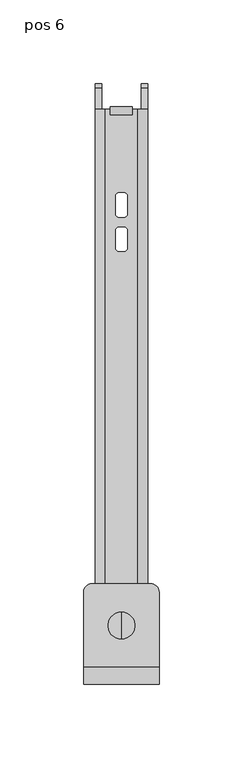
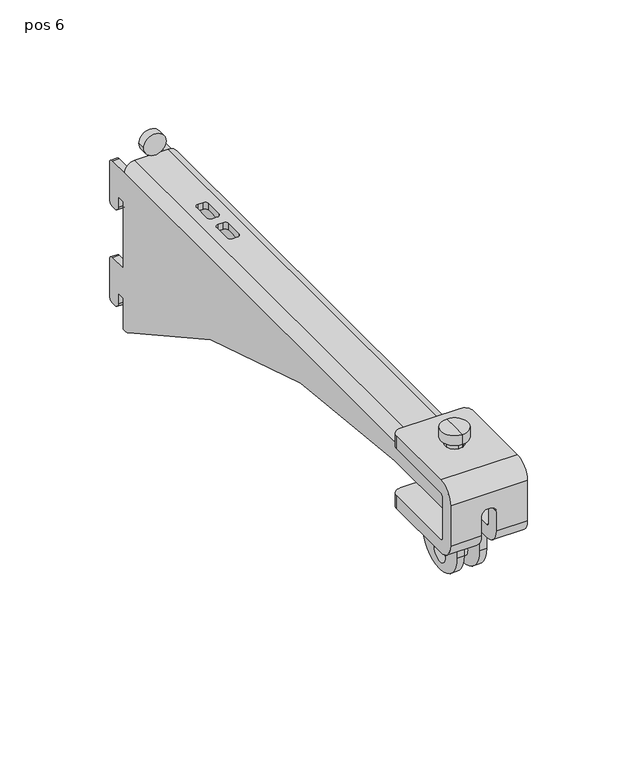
"""IFC4 building model written with IfcOpenShell, lengths in millimetres: proxy geometry, ePS10-WM330-BUMP-WVM : pos 6."""

from ifc_helpers import new_model, si_unit, point, frame, frame_2d, origin, place, context, project, spatial, polyline, circle_curve, trimmed, segment, composite_curve, outline, extrude, source, transform, mapped, element, save
from ifc_brep_helpers import plane_surface, cylinder_surface, revolved_surface, advanced_brep


def pos_6_9f17bd98(model_context):
    return source(origin(), model_context, "Body", "SolidModel", [
        extrude(outline(composite_curve([segment(polyline([(-342.0, -61.9639301), (-342.0, -48.9639301), (-307.0, -48.9639301), (-307.0, -61.9639301)]), True, "CONTINUOUS"), segment(trimmed(circle_curve(frame_2d((-324.0, -61.9639301)), 17.0), [point((-307.0, -61.9639301))], [point((-324.0, -78.9639301))], False, "CARTESIAN"), True, "CONTINUOUS"), segment(polyline([(-324.0, -78.9639301), (-325.0, -78.9639301)]), True, "CONTINUOUS"), segment(trimmed(circle_curve(frame_2d((-325.0, -61.9639301)), 17.0), [point((-325.0, -78.9639301))], [point((-342.0, -61.9639301))], False, "CARTESIAN"), True, "CONTINUOUS")], self_intersect=False), holes=[composite_curve([segment(trimmed(circle_curve(frame_2d((-324.5, -68.9639301)), 5.5), [point((-319.0, -68.9639301))], [point((-330.0, -68.9639301))], True, "CARTESIAN"), True, "CONTINUOUS"), segment(trimmed(circle_curve(frame_2d((-324.5, -68.9639301)), 5.5), [point((-330.0, -68.9639301))], [point((-319.0, -68.9639301))], True, "CARTESIAN"), True, "CONTINUOUS")], self_intersect=False)]), frame((4.5, 0.0, 0.0), z_axis=(1.0, 0.0, 0.0), x_axis=(0.0, 1.0, 0.0)), (0.0, 0.0, 1.0), 4.2),
        extrude(outline(composite_curve([segment(polyline([(-342.0, -48.9639301), (-307.0, -48.9639301), (-307.0, -61.9639301)]), True, "CONTINUOUS"), segment(trimmed(circle_curve(frame_2d((-324.0, -61.9639301)), 17.0), [point((-307.0, -61.9639301))], [point((-324.0, -78.9639301))], False, "CARTESIAN"), True, "CONTINUOUS"), segment(polyline([(-324.0, -78.9639301), (-325.0, -78.9639301)]), True, "CONTINUOUS"), segment(trimmed(circle_curve(frame_2d((-325.0, -61.9639301)), 17.0), [point((-325.0, -78.9639301))], [point((-342.0, -61.9639301))], False, "CARTESIAN"), True, "CONTINUOUS"), segment(polyline([(-342.0, -61.9639301), (-342.0, -48.9639301)]), True, "CONTINUOUS")], self_intersect=False), holes=[composite_curve([segment(trimmed(circle_curve(frame_2d((-324.5, -68.9639301)), 5.5), [point((-330.0, -68.9639301))], [point((-319.0, -68.9639301))], True, "CARTESIAN"), True, "CONTINUOUS"), segment(trimmed(circle_curve(frame_2d((-324.5, -68.9639301)), 5.5), [point((-319.0, -68.9639301))], [point((-330.0, -68.9639301))], True, "CARTESIAN"), True, "CONTINUOUS")], self_intersect=False)]), frame((-8.7, 0.0, 0.0), z_axis=(1.0, 0.0, 0.0), x_axis=(0.0, 1.0, 0.0)), (0.0, 0.0, 1.0), 4.2),
        advanced_brep(
        [(22.5, -349.5, -3.9639301), (22.5, -359.5, -13.9639301), (22.5, -359.5, -38.9639301), (22.5, -349.5, -48.9639301), (22.5, -304.5, -48.9639301), (22.5, -304.5, -40.9639301), (22.5, -349.5, -40.9639301), (22.5, -351.5, -38.9639301), (22.5, -351.5, -13.9639301), (22.5, -349.5, -11.9639301), (22.5, -304.5, -11.9639301), (22.5, -304.5, -3.9639301), (-22.5, -349.5, -11.9639301), (-22.5, -351.5, -13.9639301), (-22.5, -351.5, -38.9639301), (-22.5, -349.5, -40.9639301), (-22.5, -304.5, -40.9639301), (-22.5, -304.5, -48.9639301), (-22.5, -349.5, -48.9639301), (-22.5, -359.5, -38.9639301), (-22.5, -359.5, -13.9639301), (-22.5, -349.5, -3.9639301), (-22.5, -304.5, -3.9639301), (-22.5, -304.5, -11.9639301), (-4.5, -359.5, -38.9639301), (-4.5, -359.5, -27.388708), (-0.5, -359.5, -23.388708), (0.5, -359.5, -23.388708), (4.5, -359.5, -27.388708), (4.5, -359.5, -38.9639301), (4.5, -349.5, -48.9639301), (-4.5, -349.5, -48.9639301), (4.5, -304.5, -48.9639301), (9.5, -299.5, -48.9639301), (17.5, -299.5, -48.9639301), (-17.5, -299.5, -48.9639301), (-9.5, -299.5, -48.9639301), (-4.5, -304.5, -48.9639301), (-17.5, -299.5, -40.9639301), (-9.5, -299.5, -40.9639301), (17.5, -299.5, -40.9639301), (9.5, -299.5, -40.9639301), (4.5, -304.5, -40.9639301), (4.5, -349.5, -40.9639301), (-4.5, -349.5, -40.9639301), (-4.5, -304.5, -40.9639301), (4.5, -351.5, -38.9639301), (-4.5, -351.5, -38.9639301), (4.5, -351.5, -27.388708), (0.5, -351.5, -23.388708), (-0.5, -351.5, -23.388708), (-4.5, -351.5, -27.388708), (-17.5, -299.5, -11.9639301), (17.5, -299.5, -11.9639301), (-5.4761514, -324.5, -11.9639301), (5.4761514, -324.5, -11.9639301), (-17.5, -299.5, -3.9639301), (17.5, -299.5, -3.9639301), (5.4761514, -324.5, -3.9639301), (-5.4761514, -324.5, -3.9639301)],
        [
            (0, 1, circle_curve(frame((22.5, -349.5, -13.9639301), z_axis=(1.0, 0.0, 0.0), x_axis=(0.0, 1.0, 0.0)), 10.0)),
            (1, 2),
            (2, 3, circle_curve(frame((22.5, -349.5, -38.9639301), z_axis=(1.0, 0.0, 0.0), x_axis=(0.0, 1.0, 0.0)), 10.0)),
            (3, 4),
            (4, 5),
            (5, 6),
            (6, 7, circle_curve(frame((22.5, -349.5, -38.9639301), z_axis=(-1.0, 0.0, 0.0), x_axis=(0.0, 1.0, 0.0)), 2.0)),
            (7, 8),
            (8, 9, circle_curve(frame((22.5, -349.5, -13.9639301), z_axis=(-1.0, 0.0, 0.0), x_axis=(0.0, 1.0, 0.0)), 2.0)),
            (9, 10),
            (10, 11),
            (11, 0),
            (12, 13, circle_curve(frame((-22.5, -349.5, -13.9639301), z_axis=(1.0, 0.0, 0.0), x_axis=(0.0, 1.0, 0.0)), 2.0)),
            (13, 14),
            (14, 15, circle_curve(frame((-22.5, -349.5, -38.9639301), z_axis=(1.0, 0.0, 0.0), x_axis=(0.0, 1.0, 0.0)), 2.0)),
            (15, 16),
            (16, 17),
            (17, 18),
            (18, 19, circle_curve(frame((-22.5, -349.5, -38.9639301), z_axis=(-1.0, 0.0, 0.0), x_axis=(0.0, 1.0, 0.0)), 10.0)),
            (19, 20),
            (20, 21, circle_curve(frame((-22.5, -349.5, -13.9639301), z_axis=(-1.0, 0.0, 0.0), x_axis=(0.0, 1.0, 0.0)), 10.0)),
            (21, 22),
            (22, 23),
            (23, 12),
            (0, 21),
            (20, 1),
            (19, 24),
            (24, 25),
            (25, 26, circle_curve(frame((-0.5, -359.5, -27.388708), z_axis=(0.0, 1.0, 0.0), x_axis=(1.0, 0.0, 0.0)), 4.0)),
            (26, 27),
            (27, 28, circle_curve(frame((0.5, -359.5, -27.388708), z_axis=(0.0, 1.0, 0.0), x_axis=(1.0, 0.0, 0.0)), 4.0)),
            (28, 29),
            (29, 2),
            (29, 30, circle_curve(frame((4.5, -349.5, -38.9639301), z_axis=(1.0, 0.0, 0.0), x_axis=(0.0, 1.0, 0.0)), 10.0)),
            (30, 3),
            (18, 31),
            (31, 24, circle_curve(frame((-4.5, -349.5, -38.9639301), z_axis=(-1.0, 0.0, 0.0), x_axis=(0.0, 1.0, 0.0)), 10.0)),
            (30, 32),
            (32, 33, circle_curve(frame((9.5, -304.5, -48.9639301), z_axis=(0.0, 0.0, -1.0), x_axis=(-1.0, 0.0, 0.0)), 5.0)),
            (33, 34),
            (34, 4, circle_curve(frame((17.5, -304.5, -48.9639301), z_axis=(0.0, 0.0, -1.0), x_axis=(-1.0, 0.0, 0.0)), 5.0)),
            (17, 35, circle_curve(frame((-17.5, -304.5, -48.9639301), z_axis=(0.0, 0.0, -1.0), x_axis=(1.0, 0.0, 0.0)), 5.0)),
            (35, 36),
            (36, 37, circle_curve(frame((-9.5, -304.5, -48.9639301), z_axis=(0.0, 0.0, -1.0), x_axis=(1.0, 0.0, 0.0)), 5.0)),
            (37, 31),
            (35, 38),
            (38, 39),
            (39, 36),
            (40, 34),
            (33, 41),
            (41, 40),
            (5, 40, circle_curve(frame((17.5, -304.5, -40.9639301), z_axis=(0.0, 0.0, 1.0), x_axis=(-1.0, 0.0, 0.0)), 5.0)),
            (41, 42, circle_curve(frame((9.5, -304.5, -40.9639301), z_axis=(0.0, 0.0, 1.0), x_axis=(-1.0, 0.0, 0.0)), 5.0)),
            (42, 43),
            (43, 6),
            (15, 44),
            (44, 45),
            (45, 39, circle_curve(frame((-9.5, -304.5, -40.9639301), z_axis=(0.0, 0.0, 1.0), x_axis=(1.0, 0.0, 0.0)), 5.0)),
            (38, 16, circle_curve(frame((-17.5, -304.5, -40.9639301), z_axis=(0.0, 0.0, 1.0), x_axis=(1.0, 0.0, 0.0)), 5.0)),
            (43, 46, circle_curve(frame((4.5, -349.5, -38.9639301), z_axis=(-1.0, 0.0, 0.0), x_axis=(0.0, 1.0, 0.0)), 2.0)),
            (46, 7),
            (14, 47),
            (47, 44, circle_curve(frame((-4.5, -349.5, -38.9639301), z_axis=(1.0, 0.0, 0.0), x_axis=(0.0, 1.0, 0.0)), 2.0)),
            (46, 48),
            (48, 49, circle_curve(frame((0.5, -351.5, -27.388708), z_axis=(0.0, -1.0, 0.0), x_axis=(1.0, 0.0, 0.0)), 4.0)),
            (49, 50),
            (50, 51, circle_curve(frame((-0.5, -351.5, -27.388708), z_axis=(0.0, -1.0, 0.0), x_axis=(1.0, 0.0, 0.0)), 4.0)),
            (51, 47),
            (13, 8),
            (12, 9),
            (23, 52, circle_curve(frame((-17.5, -304.5, -11.9639301), z_axis=(0.0, 0.0, -1.0), x_axis=(1.0, 0.0, 0.0)), 5.0)),
            (52, 53),
            (53, 10, circle_curve(frame((17.5, -304.5, -11.9639301), z_axis=(0.0, 0.0, -1.0), x_axis=(-1.0, 0.0, 0.0)), 5.0)),
            (54, 55, circle_curve(frame((0.0, -324.5, -11.9639301), z_axis=(0.0, 0.0, 1.0), x_axis=(1.0, 0.0, 0.0)), 5.4761514)),
            (55, 54, circle_curve(frame((0.0, -324.5, -11.9639301), z_axis=(0.0, 0.0, 1.0), x_axis=(1.0, 0.0, 0.0)), 5.4761514)),
            (52, 56),
            (56, 57),
            (57, 53),
            (11, 57, circle_curve(frame((17.5, -304.5, -3.9639301), z_axis=(0.0, 0.0, 1.0), x_axis=(-1.0, 0.0, 0.0)), 5.0)),
            (56, 22, circle_curve(frame((-17.5, -304.5, -3.9639301), z_axis=(0.0, 0.0, 1.0), x_axis=(1.0, 0.0, 0.0)), 5.0)),
            (58, 59, circle_curve(frame((0.0, -324.5, -3.9639301), z_axis=(0.0, 0.0, -1.0), x_axis=(1.0, 0.0, 0.0)), 5.4761514)),
            (59, 58, circle_curve(frame((0.0, -324.5, -3.9639301), z_axis=(0.0, 0.0, -1.0), x_axis=(1.0, 0.0, 0.0)), 5.4761514)),
            (58, 55),
            (54, 59),
            (28, 48),
            (42, 32),
            (27, 49),
            (26, 50),
            (25, 51),
            (37, 45),
        ],
        [
            plane_surface(frame((22.5, -339.5, -13.9639301), z_axis=(1.0, 0.0, 0.0), x_axis=(0.0, 0.0, 1.0))),
            plane_surface(frame((-22.5, -339.5, -13.9639301), z_axis=(-1.0, 0.0, 0.0), x_axis=(0.0, 0.0, -1.0))),
            cylinder_surface(frame((-22.5, -349.5, -13.9639301), z_axis=(1.0, 0.0, 0.0), x_axis=(0.0, 1.0, 0.0)), 10.0),
            plane_surface(frame((22.5, -359.5, -13.9639301), z_axis=(0.0, -1.0, 0.0), x_axis=(-1.0, 0.0, 0.0))),
            cylinder_surface(frame((-22.5, -349.5, -38.9639301), z_axis=(1.0, 0.0, 0.0), x_axis=(0.0, 1.0, 0.0)), 10.0),
            plane_surface(frame((22.5, -349.5, -48.9639301), z_axis=(0.0, 0.0, -1.0), x_axis=(-1.0, 0.0, 0.0))),
            plane_surface(frame((22.5, -299.5, -48.9639301), z_axis=(0.0, 1.0, 0.0), x_axis=(-1.0, 0.0, 0.0))),
            plane_surface(frame((22.5, -299.5, -40.9639301), z_axis=(0.0, 0.0, 1.0), x_axis=(-1.0, 0.0, 0.0))),
            revolved_surface(polyline([(4.5, -347.5, -38.9639301), (22.5, -347.5, -38.9639301)]), (-22.5, -349.5, -38.9639301), (-1.0, 0.0, 0.0)),
            revolved_surface(polyline([(-22.5, -347.5, -38.9639301), (-4.5, -347.5, -38.9639301)]), (-22.5, -349.5, -38.9639301), (-1.0, 0.0, 0.0)),
            plane_surface(frame((22.5, -351.5, -38.9639301), z_axis=(0.0, 1.0, 0.0), x_axis=(-1.0, 0.0, 0.0))),
            revolved_surface(polyline([(-22.5, -347.5, -13.9639301), (22.5, -347.5, -13.9639301)]), (-22.5, -349.5, -13.9639301), (-1.0, 0.0, 0.0)),
            plane_surface(frame((22.5, -349.5, -11.9639301), z_axis=(0.0, 0.0, -1.0), x_axis=(-1.0, 0.0, 0.0))),
            plane_surface(frame((22.5, -299.5, -11.9639301), z_axis=(0.0, 1.0, 0.0), x_axis=(-1.0, 0.0, 0.0))),
            plane_surface(frame((22.5, -299.5, -3.9639301), z_axis=(0.0, 0.0, 1.0), x_axis=(-1.0, 0.0, 0.0))),
            cylinder_surface(frame((-17.5, -304.5, -48.9639301), z_axis=(0.0, 0.0, -1.0), x_axis=(1.0, 0.0, 0.0)), 5.0),
            cylinder_surface(frame((17.5, -304.5, -11.9639301), z_axis=(0.0, 0.0, -1.0), x_axis=(-1.0, 0.0, 0.0)), 5.0),
            revolved_surface(polyline([(5.4761514, -324.5, -3.9639301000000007), (5.4761514, -324.5, -11.9639301)]), (0.0, -324.5, -11.9639301), (0.0, 0.0, 1.0)),
            plane_surface(frame((4.5, -359.5, -78.9639301), z_axis=(-1.0, 0.0, 0.0), x_axis=(0.0, 1.0, 0.0))),
            revolved_surface(polyline([(4.5, -359.5, -27.388708), (4.5, -351.5, -27.388708)]), (0.5, -299.5, -27.388708), (0.0, -1.0, 0.0)),
            plane_surface(frame((0.5, -359.5, -23.388708), z_axis=(0.0, 0.0, -1.0), x_axis=(0.0, 1.0, 0.0))),
            revolved_surface(polyline([(3.5, -359.5, -27.388708), (3.5, -351.5, -27.388708)]), (-0.5, -299.5, -27.388708), (0.0, -1.0, 0.0)),
            plane_surface(frame((-4.5, -359.5, -27.388708), z_axis=(1.0, 0.0, 0.0), x_axis=(0.0, 1.0, 0.0))),
            cylinder_surface(frame((-9.5, -304.5, -48.9639301), z_axis=(0.0, 0.0, -1.0), x_axis=(1.0, 0.0, 0.0)), 5.0),
            cylinder_surface(frame((9.5, -304.5, -11.9639301), z_axis=(0.0, 0.0, -1.0), x_axis=(-1.0, 0.0, 0.0)), 5.0),
        ],
        [
            (0, [[1, 2, 3, 4, 5, 6, 7, 8, 9, 10, 11, 12]]),
            (1, [[13, 14, 15, 16, 17, 18, 19, 20, 21, 22, 23, 24]]),
            (2, [[-1, 25, -21, 26]]),
            (3, [[-2, -26, -20, 27, 28, 29, 30, 31, 32, 33]]),
            (4, [[-3, -33, 34, 35]]),
            (4, [[-19, 36, 37, -27]]),
            (5, [[-4, -35, 38, 39, 40, 41]]),
            (5, [[-18, 42, 43, 44, 45, -36]]),
            (6, [[46, 47, 48, -43]]),
            (6, [[49, -40, 50, 51]]),
            (7, [[-6, 52, -51, 53, 54, 55]]),
            (7, [[-16, 56, 57, 58, -47, 59]]),
            (8, [[-7, -55, 60, 61]]),
            (9, [[-15, 62, 63, -56]]),
            (10, [[-8, -61, 64, 65, 66, 67, 68, -62, -14, 69]]),
            (11, [[-9, -69, -13, 70]]),
            (12, [[-70, -24, 71, 72, 73, -10], [74, 75]]),
            (13, [[-72, 76, 77, 78]]),
            (14, [[-25, -12, 79, -77, 80, -22], [81, 82]]),
            (15, [[-17, -59, -46, -42]]),
            (15, [[-23, -80, -76, -71]]),
            (16, [[-5, -41, -49, -52]]),
            (16, [[-11, -73, -78, -79]]),
            (17, [[83, -74, 84, -81]]),
            (17, [[-83, -82, -84, -75]]),
            (18, [[85, -64, -60, -54, 86, -38, -34, -32]]),
            (19, [[-85, -31, 87, -65]]),
            (20, [[-87, -30, 88, -66]]),
            (21, [[-88, -29, 89, -67]]),
            (22, [[-89, -28, -37, -45, 90, -57, -63, -68]]),
            (23, [[-44, -48, -58, -90]]),
            (24, [[-39, -86, -53, -50]]),
        ],
    ),
        advanced_brep(
        [(0.0, -316.5, 0.0), (0.0, -332.5, 0.0), (0.0, -332.5, 6.0), (0.0, -316.5, 6.0), (0.0, -320.5, 0.0), (0.0, -328.5, 0.0), (0.0, -320.5, -12.0), (0.0, -328.5, -12.0), (0.0, -324.5, 6.0)],
        [
            (0, 1, circle_curve(frame((0.0, -324.5, 0.0), z_axis=(0.0, 0.0, 1.0), x_axis=(0.0, -1.0, 0.0)), 8.0)),
            (1, 2),
            (2, 3, circle_curve(frame((0.0, -324.5, 6.0), z_axis=(0.0, 0.0, -1.0), x_axis=(0.0, -1.0, 0.0)), 8.0)),
            (3, 0),
            (1, 0, circle_curve(frame((0.0, -324.5, 0.0), z_axis=(0.0, 0.0, 1.0), x_axis=(0.0, -1.0, 0.0)), 8.0)),
            (3, 2, circle_curve(frame((0.0, -324.5, 6.0), z_axis=(0.0, 0.0, -1.0), x_axis=(0.0, -1.0, 0.0)), 8.0)),
            (0, 4),
            (4, 5, circle_curve(frame((0.0, -324.5, 0.0), z_axis=(0.0, 0.0, 1.0), x_axis=(0.0, -1.0, 0.0)), 4.0)),
            (5, 1),
            (5, 4, circle_curve(frame((0.0, -324.5, 0.0), z_axis=(0.0, 0.0, 1.0), x_axis=(0.0, -1.0, 0.0)), 4.0)),
            (4, 6),
            (6, 7, circle_curve(frame((0.0, -324.5, -12.0), z_axis=(0.0, 0.0, 1.0), x_axis=(0.0, -1.0, 0.0)), 4.0)),
            (7, 5),
            (7, 6, circle_curve(frame((0.0, -324.5, -12.0), z_axis=(0.0, 0.0, 1.0), x_axis=(0.0, -1.0, 0.0)), 4.0)),
            (2, 8),
            (8, 3),
        ],
        [
            cylinder_surface(frame((0.0, -324.5, 10.4453694), z_axis=(0.0, 0.0, -1.0), x_axis=(0.0, -1.0, 0.0)), 8.0),
            plane_surface(frame((0.0, -324.5, 0.0), z_axis=(0.0, 0.0, -1.0), x_axis=(0.0, -1.0, 0.0))),
            cylinder_surface(frame((0.0, -324.5, 10.4453694), z_axis=(0.0, 0.0, -1.0), x_axis=(0.0, -1.0, 0.0)), 4.0),
            plane_surface(frame((0.0, -324.5, 6.0), z_axis=(0.0, 0.0, 1.0), x_axis=(0.0, -1.0, 0.0))),
            plane_surface(frame((4.5, -324.5, -12.0), z_axis=(0.0, 0.0, -1.0), x_axis=(0.0, 1.0, 0.0))),
        ],
        [
            (0, [[1, 2, 3, 4]]),
            (0, [[-2, 5, -4, 6]]),
            (1, [[-1, 7, 8, 9]]),
            (1, [[-5, -9, 10, -7]]),
            (2, [[-8, 11, 12, 13]]),
            (2, [[-10, -13, 14, -11]]),
            (3, [[-3, 15, 16]]),
            (3, [[-6, -16, -15]]),
            (4, [[-12, -14]]),
        ],
    ),
        advanced_brep(
        [(0.0, -314.5, -16.0), (0.0, -334.5, -16.0), (0.0, -329.0, -16.0), (-4.5, -324.5, -16.0), (0.0, -320.0, -16.0), (4.5, -324.5, -16.0), (0.0, -314.5, -30.0), (0.0, -334.5, -30.0), (0.0, -324.5, -30.0), (-4.5, -324.5, -18.0), (4.5, -324.5, -18.0)],
        [
            (0, 1, circle_curve(frame((0.0, -324.5, -16.0), z_axis=(0.0, 0.0, 1.0), x_axis=(0.0, -1.0, 0.0)), 10.0)),
            (1, 2),
            (2, 3, circle_curve(frame((0.0, -324.5, -16.0), z_axis=(0.0, 0.0, -1.0), x_axis=(1.0, 0.0, 0.0)), 4.5)),
            (3, 4, circle_curve(frame((0.0, -324.5, -16.0), z_axis=(0.0, 0.0, -1.0), x_axis=(1.0, 0.0, 0.0)), 4.5)),
            (4, 0),
            (1, 0, circle_curve(frame((0.0, -324.5, -16.0), z_axis=(0.0, 0.0, 1.0), x_axis=(0.0, -1.0, 0.0)), 10.0)),
            (4, 5, circle_curve(frame((0.0, -324.5, -16.0), z_axis=(0.0, 0.0, -1.0), x_axis=(1.0, 0.0, 0.0)), 4.5)),
            (5, 2, circle_curve(frame((0.0, -324.5, -16.0), z_axis=(0.0, 0.0, -1.0), x_axis=(1.0, 0.0, 0.0)), 4.5)),
            (0, 6),
            (6, 7, circle_curve(frame((0.0, -324.5, -30.0), z_axis=(0.0, 0.0, 1.0), x_axis=(0.0, -1.0, 0.0)), 10.0)),
            (7, 1),
            (7, 6, circle_curve(frame((0.0, -324.5, -30.0), z_axis=(0.0, 0.0, 1.0), x_axis=(0.0, -1.0, 0.0)), 10.0)),
            (6, 8),
            (8, 7),
            (9, 10, circle_curve(frame((0.0, -324.5, -18.0), z_axis=(0.0, 0.0, 1.0), x_axis=(1.0, 0.0, 0.0)), 4.5)),
            (10, 9, circle_curve(frame((0.0, -324.5, -18.0), z_axis=(0.0, 0.0, 1.0), x_axis=(1.0, 0.0, 0.0)), 4.5)),
            (9, 3),
            (5, 10),
        ],
        [
            plane_surface(frame((0.0, -324.5, -16.0), z_axis=(0.0, 0.0, 1.0), x_axis=(0.0, -1.0, 0.0))),
            cylinder_surface(frame((0.0, -324.5, 10.4453694), z_axis=(0.0, 0.0, -1.0), x_axis=(0.0, -1.0, 0.0)), 10.0),
            plane_surface(frame((0.0, -324.5, -30.0), z_axis=(0.0, 0.0, -1.0), x_axis=(0.0, -1.0, 0.0))),
            plane_surface(frame((4.5, -324.5, -18.0), z_axis=(0.0, 0.0, 1.0), x_axis=(0.0, -1.0, 0.0))),
            revolved_surface(polyline([(4.5, -324.5, -16.0), (4.5, -324.5, -18.0)]), (0.0, -324.5, -18.0), (0.0, 0.0, 1.0)),
        ],
        [
            (0, [[1, 2, 3, 4, 5]]),
            (0, [[6, -5, 7, 8, -2]]),
            (1, [[-1, 9, 10, 11]]),
            (1, [[-6, -11, 12, -9]]),
            (2, [[-10, 13, 14]]),
            (2, [[-12, -14, -13]]),
            (3, [[15, 16]]),
            (4, [[-15, 17, -3, -8, 18]]),
            (4, [[-16, -18, -7, -4, -17]]),
        ],
    ),
        advanced_brep(
        [(-11.75, -344.6066017, -18.0), (-9.75, -344.6066017, -16.0), (9.75, -344.6066017, -16.0), (11.75, -344.6066017, -18.0), (11.75, -344.6066017, -27.0), (15.75, -344.6066017, -27.0), (15.75, -344.6066017, -17.9999955), (9.7500045, -344.6066017, -12.0), (-9.7500045, -344.6066017, -12.0), (-15.75, -344.6066017, -17.9999955), (-15.75, -344.6066017, -27.0), (-11.75, -344.6066017, -27.0), (15.75, -1.0, -19.5148645), (15.75, -1.0, -44.4851355), (11.75, -1.0, -44.4851355), (11.75, -1.0, -19.5148645), (15.75, -1.0, -79.5148645), (15.75, -1.0, -104.4851355), (11.75, -1.0, -104.4851355), (11.75, -1.0, -79.5148645), (-11.75, -1.0, -19.5148645), (-11.75, -1.0, -44.4851355), (-15.75, -1.0, -44.4851355), (-15.75, -1.0, -19.5148645), (-11.75, -1.0, -79.5148645), (-11.75, -1.0, -104.4851355), (-15.75, -1.0, -104.4851355), (-15.75, -1.0, -79.5148645), (-15.75, -16.1066017, -17.9999955), (-15.75, -3.6066017, -18.0), (-15.75, -3.6066017, -46.0), (-15.75, -6.6066017, -46.0), (-15.75, -9.6066017, -43.0), (-15.75, -9.6066017, -36.5), (-15.75, -14.6066017, -36.5), (-15.75, -14.6066017, -78.0), (-15.75, -3.6066017, -78.0), (-15.75, -3.6066017, -106.0), (-15.75, -6.6066017, -106.0), (-15.75, -9.6066017, -103.0), (-15.75, -9.6066017, -96.5), (-15.75, -14.6066017, -96.5), (-15.75, -14.6066017, -115.7221159), (-15.75, -17.1105815, -115.7221159), (-15.75, -19.7818053, -114.9054408), (-15.75, -290.8148171, -30.0), (-15.75, -341.6066017, -30.0), (-11.75, -14.6066017, -115.7221159), (-11.75, -17.1105815, -115.7221159), (-11.75, -341.6066017, -30.0), (-11.75, -290.8148171, -30.0), (-11.75, -19.7818053, -114.9054408), (-11.75, -14.6066017, -96.5), (-11.75, -9.6066017, -96.5), (-11.75, -9.6066017, -103.0), (-11.75, -6.6066017, -106.0), (-11.75, -3.6066017, -106.0), (-11.75, -3.6066017, -78.0), (-11.75, -14.6066017, -78.0), (-11.75, -14.6066017, -36.5), (-11.75, -9.6066017, -36.5), (-11.75, -9.6066017, -43.0), (-11.75, -6.6066017, -46.0), (-11.75, -3.6066017, -46.0), (-11.75, -3.6066017, -18.0), (-11.75, -16.1066017, -18.0), (-9.75, -16.1066017, -16.0), (9.75, -16.1066017, -16.0), (-4.5, -324.5, -16.0), (4.5, -324.5, -16.0), (3.5, -78.6066017, -16.0), (3.5, -68.1066017, -16.0), (1.5, -66.1066017, -16.0), (-1.5, -66.1066017, -16.0), (-3.5, -68.1066017, -16.0), (-3.5, -78.6066017, -16.0), (-1.5, -80.6066017, -16.0), (1.5, -80.6066017, -16.0), (3.5, -99.1066017, -16.0), (3.5, -88.6066017, -16.0), (1.5, -86.6066017, -16.0), (-1.5, -86.6066017, -16.0), (-3.5, -88.6066017, -16.0), (-3.5, -99.1066017, -16.0), (-1.5, -101.1066017, -16.0), (1.5, -101.1066017, -16.0), (11.75, -16.1066017, -18.0), (11.75, -3.6066017, -18.0), (11.75, -3.6066017, -46.0), (11.75, -6.6066017, -46.0), (11.75, -9.6066017, -43.0), (11.75, -9.6066017, -36.5), (11.75, -14.6066017, -36.5), (11.75, -14.6066017, -78.0), (11.75, -3.6066017, -78.0), (11.75, -3.6066017, -106.0), (11.75, -6.6066017, -106.0), (11.75, -9.6066017, -103.0), (11.75, -9.6066017, -96.5), (11.75, -14.6066017, -96.5), (11.75, -14.6066017, -115.7221159), (11.75, -17.1105815, -115.7221159), (11.75, -19.7818053, -114.9054408), (11.75, -290.8148171, -30.0), (11.75, -341.6066017, -30.0), (15.75, -14.6066017, -115.7221159), (15.75, -17.1105815, -115.7221159), (15.75, -341.6066017, -30.0), (15.75, -290.8148171, -30.0), (15.75, -19.7818053, -114.9054408), (15.75, -14.6066017, -96.5), (15.75, -9.6066017, -96.5), (15.75, -9.6066017, -103.0), (15.75, -6.6066017, -106.0), (15.75, -3.6066017, -106.0), (15.75, -3.6066017, -78.0), (15.75, -14.6066017, -78.0), (15.75, -14.6066017, -36.5), (15.75, -9.6066017, -36.5), (15.75, -9.6066017, -43.0), (15.75, -6.6066017, -46.0), (15.75, -3.6066017, -46.0), (15.75, -3.6066017, -18.0), (15.75, -16.1066017, -18.0), (9.7500045, -16.1066017, -12.0), (-9.7500045, -16.1066017, -12.0), (4.5, -324.5, -12.0), (-4.5, -324.5, -12.0), (3.5, -68.1066017, -12.0), (3.5, -78.6066017, -12.0), (1.5, -80.6066017, -12.0), (-1.5, -80.6066017, -12.0), (-3.5, -78.6066017, -12.0), (-3.5, -68.1066017, -12.0), (-1.5, -66.1066017, -12.0), (1.5, -66.1066017, -12.0), (3.5, -88.6066017, -12.0), (3.5, -99.1066017, -12.0), (1.5, -101.1066017, -12.0), (-1.5, -101.1066017, -12.0), (-3.5, -99.1066017, -12.0), (-3.5, -88.6066017, -12.0), (-1.5, -86.6066017, -12.0), (1.5, -86.6066017, -12.0)],
        [
            (0, 1, circle_curve(frame((-9.75, -344.6066017, -18.0), z_axis=(0.0, 1.0, 0.0), x_axis=(1.0, 0.0, 0.0)), 2.0)),
            (1, 2),
            (2, 3, circle_curve(frame((9.75, -344.6066017, -18.0), z_axis=(0.0, 1.0, 0.0), x_axis=(-1.0, 0.0, 0.0)), 2.0)),
            (3, 4),
            (4, 5),
            (5, 6),
            (6, 7, circle_curve(frame((9.7500045, -344.6066017, -17.9999955), z_axis=(0.0, -1.0, 0.0), x_axis=(-1.0, 0.0, 0.0)), 5.9999955)),
            (7, 8),
            (8, 9, circle_curve(frame((-9.7500045, -344.6066017, -17.9999955), z_axis=(0.0, -1.0, 0.0), x_axis=(1.0, 0.0, 0.0)), 5.9999955)),
            (9, 10),
            (10, 11),
            (11, 0),
            (12, 13),
            (13, 14),
            (14, 15),
            (15, 12),
            (16, 17),
            (17, 18),
            (18, 19),
            (19, 16),
            (20, 21),
            (21, 22),
            (22, 23),
            (23, 20),
            (24, 25),
            (25, 26),
            (26, 27),
            (27, 24),
            (9, 28),
            (28, 29),
            (29, 23, circle_curve(frame((-15.75, -3.6066017, -21.0), z_axis=(-1.0, 0.0, 0.0), x_axis=(0.0, 1.0, 0.0)), 3.0)),
            (22, 30, circle_curve(frame((-15.75, -3.6066017, -43.0), z_axis=(-1.0, 0.0, 0.0), x_axis=(0.0, 1.0, 0.0)), 3.0)),
            (30, 31),
            (31, 32, circle_curve(frame((-15.75, -6.6066017, -43.0), z_axis=(-1.0, 0.0, 0.0), x_axis=(0.0, 1.0, 0.0)), 3.0)),
            (32, 33),
            (33, 34),
            (34, 35),
            (35, 36),
            (36, 27, circle_curve(frame((-15.75, -3.6066017, -81.0), z_axis=(-1.0, 0.0, 0.0), x_axis=(0.0, 1.0, 0.0)), 3.0)),
            (26, 37, circle_curve(frame((-15.75, -3.6066017, -103.0), z_axis=(-1.0, 0.0, 0.0), x_axis=(0.0, 1.0, 0.0)), 3.0)),
            (37, 38),
            (38, 39, circle_curve(frame((-15.75, -6.6066017, -103.0), z_axis=(-1.0, 0.0, 0.0), x_axis=(0.0, 1.0, 0.0)), 3.0)),
            (39, 40),
            (40, 41),
            (41, 42),
            (42, 43),
            (43, 44, circle_curve(frame((-15.75, -17.1105815, -110.9451887), z_axis=(-1.0, 0.0, 0.0), x_axis=(0.0, 1.0, 0.0)), 4.7769272)),
            (44, 45, circle_curve(frame((-15.75, -290.8148171, -505.0451006), z_axis=(1.0, 0.0, 0.0), x_axis=(0.0, 1.0, 0.0)), 475.0451006)),
            (45, 46),
            (46, 10, circle_curve(frame((-15.75, -341.6066017, -27.0), z_axis=(-1.0, 0.0, 0.0), x_axis=(0.0, 1.0, 0.0)), 3.0)),
            (42, 47),
            (47, 48),
            (48, 43),
            (11, 49, circle_curve(frame((-11.75, -341.6066017, -27.0), z_axis=(1.0, 0.0, 0.0), x_axis=(0.0, 1.0, 0.0)), 3.0)),
            (49, 50),
            (50, 51, circle_curve(frame((-11.75, -290.8148171, -505.0451006), z_axis=(-1.0, 0.0, 0.0), x_axis=(0.0, 1.0, 0.0)), 475.0451006)),
            (51, 48, circle_curve(frame((-11.75, -17.1105815, -110.9451887), z_axis=(1.0, 0.0, 0.0), x_axis=(0.0, 1.0, 0.0)), 4.7769272)),
            (47, 52),
            (52, 53),
            (53, 54),
            (54, 55, circle_curve(frame((-11.75, -6.6066017, -103.0), z_axis=(1.0, 0.0, 0.0), x_axis=(0.0, 1.0, 0.0)), 3.0)),
            (55, 56),
            (56, 25, circle_curve(frame((-11.75, -3.6066017, -103.0), z_axis=(1.0, 0.0, 0.0), x_axis=(0.0, 1.0, 0.0)), 3.0)),
            (24, 57, circle_curve(frame((-11.75, -3.6066017, -81.0), z_axis=(1.0, 0.0, 0.0), x_axis=(0.0, 1.0, 0.0)), 3.0)),
            (57, 58),
            (58, 59),
            (59, 60),
            (60, 61),
            (61, 62, circle_curve(frame((-11.75, -6.6066017, -43.0), z_axis=(1.0, 0.0, 0.0), x_axis=(0.0, 1.0, 0.0)), 3.0)),
            (62, 63),
            (63, 21, circle_curve(frame((-11.75, -3.6066017, -43.0), z_axis=(1.0, 0.0, 0.0), x_axis=(0.0, 1.0, 0.0)), 3.0)),
            (20, 64, circle_curve(frame((-11.75, -3.6066017, -21.0), z_axis=(1.0, 0.0, 0.0), x_axis=(0.0, 1.0, 0.0)), 3.0)),
            (64, 65),
            (65, 0),
            (65, 66, circle_curve(frame((-9.75, -16.1066017, -18.0), z_axis=(0.0, 1.0, 0.0), x_axis=(1.0, 0.0, 0.0)), 2.0)),
            (66, 1),
            (66, 67),
            (67, 2),
            (68, 69, circle_curve(frame((0.0, -324.5, -16.0), z_axis=(0.0, 0.0, 1.0), x_axis=(1.0, 0.0, 0.0)), 4.5)),
            (69, 68, circle_curve(frame((0.0, -324.5, -16.0), z_axis=(0.0, 0.0, 1.0), x_axis=(1.0, 0.0, 0.0)), 4.5)),
            (70, 71),
            (71, 72, circle_curve(frame((1.5, -68.1066017, -16.0), z_axis=(0.0, 0.0, 1.0), x_axis=(1.0, 0.0, 0.0)), 2.0)),
            (72, 73),
            (73, 74, circle_curve(frame((-1.5, -68.1066017, -16.0), z_axis=(0.0, 0.0, 1.0), x_axis=(-1.0, 0.0, 0.0)), 2.0)),
            (74, 75),
            (75, 76, circle_curve(frame((-1.5, -78.6066017, -16.0), z_axis=(0.0, 0.0, 1.0), x_axis=(-1.0, 0.0, 0.0)), 2.0)),
            (76, 77),
            (77, 70, circle_curve(frame((1.5, -78.6066017, -16.0), z_axis=(0.0, 0.0, 1.0), x_axis=(1.0, 0.0, 0.0)), 2.0)),
            (78, 79),
            (79, 80, circle_curve(frame((1.5, -88.6066017, -16.0), z_axis=(0.0, 0.0, 1.0), x_axis=(1.0, 0.0, 0.0)), 2.0)),
            (80, 81),
            (81, 82, circle_curve(frame((-1.5, -88.6066017, -16.0), z_axis=(0.0, 0.0, 1.0), x_axis=(-1.0, 0.0, 0.0)), 2.0)),
            (82, 83),
            (83, 84, circle_curve(frame((-1.5, -99.1066017, -16.0), z_axis=(0.0, 0.0, 1.0), x_axis=(-1.0, 0.0, 0.0)), 2.0)),
            (84, 85),
            (85, 78, circle_curve(frame((1.5, -99.1066017, -16.0), z_axis=(0.0, 0.0, 1.0), x_axis=(1.0, 0.0, 0.0)), 2.0)),
            (67, 86, circle_curve(frame((9.75, -16.1066017, -18.0), z_axis=(0.0, 1.0, 0.0), x_axis=(-1.0, 0.0, 0.0)), 2.0)),
            (86, 3),
            (86, 87),
            (87, 15, circle_curve(frame((11.75, -3.6066017, -21.0), z_axis=(-1.0, 0.0, 0.0), x_axis=(0.0, 1.0, 0.0)), 3.0)),
            (14, 88, circle_curve(frame((11.75, -3.6066017, -43.0), z_axis=(-1.0, 0.0, 0.0), x_axis=(0.0, 1.0, 0.0)), 3.0)),
            (88, 89),
            (89, 90, circle_curve(frame((11.75, -6.6066017, -43.0), z_axis=(-1.0, 0.0, 0.0), x_axis=(0.0, 1.0, 0.0)), 3.0)),
            (90, 91),
            (91, 92),
            (92, 93),
            (93, 94),
            (94, 19, circle_curve(frame((11.75, -3.6066017, -81.0), z_axis=(-1.0, 0.0, 0.0), x_axis=(0.0, 1.0, 0.0)), 3.0)),
            (18, 95, circle_curve(frame((11.75, -3.6066017, -103.0), z_axis=(-1.0, 0.0, 0.0), x_axis=(0.0, 1.0, 0.0)), 3.0)),
            (95, 96),
            (96, 97, circle_curve(frame((11.75, -6.6066017, -103.0), z_axis=(-1.0, 0.0, 0.0), x_axis=(0.0, 1.0, 0.0)), 3.0)),
            (97, 98),
            (98, 99),
            (99, 100),
            (100, 101),
            (101, 102, circle_curve(frame((11.75, -17.1105815, -110.9451887), z_axis=(-1.0, 0.0, 0.0), x_axis=(0.0, 1.0, 0.0)), 4.7769272)),
            (102, 103, circle_curve(frame((11.75, -290.8148171, -505.0451006), z_axis=(1.0, 0.0, 0.0), x_axis=(0.0, 1.0, 0.0)), 475.0451006)),
            (103, 104),
            (104, 4, circle_curve(frame((11.75, -341.6066017, -27.0), z_axis=(-1.0, 0.0, 0.0), x_axis=(0.0, 1.0, 0.0)), 3.0)),
            (100, 105),
            (105, 106),
            (106, 101),
            (5, 107, circle_curve(frame((15.75, -341.6066017, -27.0), z_axis=(1.0, 0.0, 0.0), x_axis=(0.0, 1.0, 0.0)), 3.0)),
            (107, 108),
            (108, 109, circle_curve(frame((15.75, -290.8148171, -505.0451006), z_axis=(-1.0, 0.0, 0.0), x_axis=(0.0, 1.0, 0.0)), 475.0451006)),
            (109, 106, circle_curve(frame((15.75, -17.1105815, -110.9451887), z_axis=(1.0, 0.0, 0.0), x_axis=(0.0, 1.0, 0.0)), 4.7769272)),
            (105, 110),
            (110, 111),
            (111, 112),
            (112, 113, circle_curve(frame((15.75, -6.6066017, -103.0), z_axis=(1.0, 0.0, 0.0), x_axis=(0.0, 1.0, 0.0)), 3.0)),
            (113, 114),
            (114, 17, circle_curve(frame((15.75, -3.6066017, -103.0), z_axis=(1.0, 0.0, 0.0), x_axis=(0.0, 1.0, 0.0)), 3.0)),
            (16, 115, circle_curve(frame((15.75, -3.6066017, -81.0), z_axis=(1.0, 0.0, 0.0), x_axis=(0.0, 1.0, 0.0)), 3.0)),
            (115, 116),
            (116, 117),
            (117, 118),
            (118, 119),
            (119, 120, circle_curve(frame((15.75, -6.6066017, -43.0), z_axis=(1.0, 0.0, 0.0), x_axis=(0.0, 1.0, 0.0)), 3.0)),
            (120, 121),
            (121, 13, circle_curve(frame((15.75, -3.6066017, -43.0), z_axis=(1.0, 0.0, 0.0), x_axis=(0.0, 1.0, 0.0)), 3.0)),
            (12, 122, circle_curve(frame((15.75, -3.6066017, -21.0), z_axis=(1.0, 0.0, 0.0), x_axis=(0.0, 1.0, 0.0)), 3.0)),
            (122, 123),
            (123, 6),
            (123, 124, circle_curve(frame((9.7500045, -16.1066017, -17.9999955), z_axis=(0.0, -1.0, 0.0), x_axis=(-1.0, 0.0, 0.0)), 5.9999955)),
            (124, 7),
            (124, 125),
            (125, 8),
            (126, 127, circle_curve(frame((0.0, -324.5, -12.0), z_axis=(0.0, 0.0, -1.0), x_axis=(1.0, 0.0, 0.0)), 4.5)),
            (127, 126, circle_curve(frame((0.0, -324.5, -12.0), z_axis=(0.0, 0.0, -1.0), x_axis=(1.0, 0.0, 0.0)), 4.5)),
            (128, 129),
            (129, 130, circle_curve(frame((1.5, -78.6066017, -12.0), z_axis=(0.0, 0.0, -1.0), x_axis=(1.0, 0.0, 0.0)), 2.0)),
            (130, 131),
            (131, 132, circle_curve(frame((-1.5, -78.6066017, -12.0), z_axis=(0.0, 0.0, -1.0), x_axis=(-1.0, 0.0, 0.0)), 2.0)),
            (132, 133),
            (133, 134, circle_curve(frame((-1.5, -68.1066017, -12.0), z_axis=(0.0, 0.0, -1.0), x_axis=(-1.0, 0.0, 0.0)), 2.0)),
            (134, 135),
            (135, 128, circle_curve(frame((1.5, -68.1066017, -12.0), z_axis=(0.0, 0.0, -1.0), x_axis=(1.0, 0.0, 0.0)), 2.0)),
            (136, 137),
            (137, 138, circle_curve(frame((1.5, -99.1066017, -12.0), z_axis=(0.0, 0.0, -1.0), x_axis=(1.0, 0.0, 0.0)), 2.0)),
            (138, 139),
            (139, 140, circle_curve(frame((-1.5, -99.1066017, -12.0), z_axis=(0.0, 0.0, -1.0), x_axis=(-1.0, 0.0, 0.0)), 2.0)),
            (140, 141),
            (141, 142, circle_curve(frame((-1.5, -88.6066017, -12.0), z_axis=(0.0, 0.0, -1.0), x_axis=(-1.0, 0.0, 0.0)), 2.0)),
            (142, 143),
            (143, 136, circle_curve(frame((1.5, -88.6066017, -12.0), z_axis=(0.0, 0.0, -1.0), x_axis=(1.0, 0.0, 0.0)), 2.0)),
            (125, 28, circle_curve(frame((-9.7500045, -16.1066017, -17.9999955), z_axis=(0.0, -1.0, 0.0), x_axis=(1.0, 0.0, 0.0)), 5.9999955)),
            (46, 49),
            (104, 107),
            (45, 50),
            (103, 108),
            (30, 63),
            (62, 31),
            (88, 121),
            (120, 89),
            (32, 61),
            (60, 33),
            (90, 119),
            (118, 91),
            (59, 34),
            (117, 92),
            (41, 52),
            (99, 110),
            (65, 28),
            (123, 86),
            (64, 29),
            (122, 87),
            (58, 35),
            (116, 93),
            (57, 36),
            (115, 94),
            (56, 37),
            (114, 95),
            (55, 38),
            (113, 96),
            (54, 39),
            (112, 97),
            (53, 40),
            (111, 98),
            (68, 127),
            (126, 69),
            (70, 129),
            (128, 71),
            (135, 72),
            (134, 73),
            (133, 74),
            (132, 75),
            (131, 76),
            (130, 77),
            (78, 137),
            (136, 79),
            (143, 80),
            (142, 81),
            (141, 82),
            (140, 83),
            (139, 84),
            (138, 85),
            (51, 44),
            (109, 102),
        ],
        [
            plane_surface(frame((-15.75, -344.6066017, -111.5465509), z_axis=(0.0, -1.0, 0.0), x_axis=(0.0, 0.0, -1.0))),
            plane_surface(frame((-15.75, -1.0, -111.5465509), z_axis=(0.0, 1.0, 0.0), x_axis=(0.0, 0.0, 1.0))),
            plane_surface(frame((-15.75, -344.6066017, -17.9999955), z_axis=(-1.0, 0.0, 0.0), x_axis=(0.0, 1.0, 0.0))),
            plane_surface(frame((-15.75, -344.6066017, -115.7221159), z_axis=(0.0, 0.0, -1.0), x_axis=(0.0, 1.0, 0.0))),
            plane_surface(frame((-11.75, -344.6066017, -115.7221159), z_axis=(1.0, 0.0, 0.0), x_axis=(0.0, 1.0, 0.0))),
            revolved_surface(polyline([(-7.75, -16.1066017, -18.0), (-7.75, -344.6066017, -18.0)]), (-9.75, -1.0, -18.0), (0.0, 1.0, 0.0)),
            plane_surface(frame((-9.75, -344.6066017, -16.0), z_axis=(0.0, 0.0, -1.0), x_axis=(0.0, 1.0, 0.0))),
            revolved_surface(polyline([(7.75, -16.1066017, -18.0), (7.75, -344.6066017, -18.0)]), (9.75, -1.0, -18.0), (0.0, 1.0, 0.0)),
            plane_surface(frame((11.75, -344.6066017, -18.0), z_axis=(-1.0, 0.0, 0.0), x_axis=(0.0, 1.0, 0.0))),
            plane_surface(frame((11.75, -344.6066017, -115.7221159), z_axis=(0.0, 0.0, -1.0), x_axis=(0.0, 1.0, 0.0))),
            plane_surface(frame((15.75, -344.6066017, -115.7221159), z_axis=(1.0, 0.0, 0.0), x_axis=(0.0, 1.0, 0.0))),
            cylinder_surface(frame((9.7500045, -1.0, -17.9999955), z_axis=(0.0, -1.0, 0.0), x_axis=(-1.0, 0.0, 0.0)), 5.9999955),
            plane_surface(frame((9.7500045, -344.6066017, -12.0), z_axis=(0.0, 0.0, 1.0), x_axis=(0.0, 1.0, 0.0))),
            cylinder_surface(frame((-9.7500045, -1.0, -17.9999955), z_axis=(0.0, -1.0, 0.0), x_axis=(1.0, 0.0, 0.0)), 5.9999955),
            cylinder_surface(frame((-20.0, -341.6066017, -27.0), z_axis=(-1.0, 0.0, 0.0), x_axis=(0.0, 1.0, 0.0)), 3.0),
            plane_surface(frame((20.0, -290.8148171, -30.0), z_axis=(0.0, 0.0, -1.0), x_axis=(-1.0, 0.0, 0.0))),
            plane_surface(frame((20.0, -3.6066017, -46.0), z_axis=(0.0, 0.0, -1.0), x_axis=(-1.0, 0.0, 0.0))),
            plane_surface(frame((20.0, -9.6066017, -43.0), z_axis=(0.0, -1.0, 0.0), x_axis=(-1.0, 0.0, 0.0))),
            plane_surface(frame((20.0, -9.6066017, -36.5), z_axis=(0.0, 0.0, -1.0), x_axis=(-1.0, 0.0, 0.0))),
            plane_surface(frame((20.0, -14.6066017, -96.5), z_axis=(0.0, 1.0, 0.0), x_axis=(-1.0, 0.0, 0.0))),
            plane_surface(frame((20.0, -16.1066017, -12.0), z_axis=(0.0, 1.0, 0.0), x_axis=(-1.0, 0.0, 0.0))),
            plane_surface(frame((20.0, -16.1066017, -18.0), z_axis=(0.0, 0.0, 1.0), x_axis=(-1.0, 0.0, 0.0))),
            cylinder_surface(frame((0.0, -3.6066017, -21.0), z_axis=(-1.0, 0.0, 0.0), x_axis=(0.0, 1.0, 0.0)), 3.0),
            cylinder_surface(frame((0.0, -3.6066017, -43.0), z_axis=(-1.0, 0.0, 0.0), x_axis=(0.0, 1.0, 0.0)), 3.0),
            cylinder_surface(frame((0.0, -6.6066017, -43.0), z_axis=(-1.0, 0.0, 0.0), x_axis=(0.0, 1.0, 0.0)), 3.0),
            plane_surface(frame((20.0, -14.6066017, -36.5), z_axis=(0.0, 1.0, 0.0), x_axis=(-1.0, 0.0, 0.0))),
            plane_surface(frame((20.0, -14.6066017, -78.0), z_axis=(0.0, 0.0, 1.0), x_axis=(-1.0, 0.0, 0.0))),
            cylinder_surface(frame((0.0, -3.6066017, -81.0), z_axis=(-1.0, 0.0, 0.0), x_axis=(0.0, 1.0, 0.0)), 3.0),
            cylinder_surface(frame((0.0, -3.6066017, -103.0), z_axis=(-1.0, 0.0, 0.0), x_axis=(0.0, 1.0, 0.0)), 3.0),
            plane_surface(frame((20.0, -3.6066017, -106.0), z_axis=(0.0, 0.0, -1.0), x_axis=(-1.0, 0.0, 0.0))),
            cylinder_surface(frame((0.0, -6.6066017, -103.0), z_axis=(-1.0, 0.0, 0.0), x_axis=(0.0, 1.0, 0.0)), 3.0),
            plane_surface(frame((20.0, -9.6066017, -103.0), z_axis=(0.0, -1.0, 0.0), x_axis=(-1.0, 0.0, 0.0))),
            plane_surface(frame((20.0, -9.6066017, -96.5), z_axis=(0.0, 0.0, -1.0), x_axis=(-1.0, 0.0, 0.0))),
            revolved_surface(polyline([(4.5, -324.5, -12.0), (4.5, -324.5, -16.0)]), (0.0, -324.5, -18.0), (0.0, 0.0, 1.0)),
            plane_surface(frame((3.5, -78.6066017, -12.0), z_axis=(-1.0, 0.0, 0.0), x_axis=(0.0, 0.0, -1.0))),
            revolved_surface(polyline([(3.5, -68.1066017, -12.0), (3.5, -68.1066017, -16.0)]), (1.5, -68.1066017, -12.0), (0.0, 0.0, 1.0)),
            plane_surface(frame((1.5, -66.1066017, -12.0), z_axis=(0.0, -1.0, 0.0), x_axis=(0.0, 0.0, -1.0))),
            revolved_surface(polyline([(-3.5, -68.1066017, -12.0), (-3.5, -68.1066017, -16.0)]), (-1.5, -68.1066017, -12.0), (0.0, 0.0, 1.0)),
            plane_surface(frame((-3.5, -68.1066017, -12.0), z_axis=(1.0, 0.0, 0.0), x_axis=(0.0, 0.0, -1.0))),
            revolved_surface(polyline([(-3.5, -78.6066017, -12.0), (-3.5, -78.6066017, -16.0)]), (-1.5, -78.6066017, -12.0), (0.0, 0.0, 1.0)),
            plane_surface(frame((-1.5, -80.6066017, -12.0), z_axis=(0.0, 1.0, 0.0), x_axis=(0.0, 0.0, -1.0))),
            revolved_surface(polyline([(3.5, -78.6066017, -12.0), (3.5, -78.6066017, -16.0)]), (1.5, -78.6066017, -12.0), (0.0, 0.0, 1.0)),
            plane_surface(frame((3.5, -99.1066017, -12.0), z_axis=(-1.0, 0.0, 0.0), x_axis=(0.0, 0.0, -1.0))),
            revolved_surface(polyline([(3.5, -88.6066017, -12.0), (3.5, -88.6066017, -16.0)]), (1.5, -88.6066017, -12.0), (0.0, 0.0, 1.0)),
            plane_surface(frame((1.5, -86.6066017, -12.0), z_axis=(0.0, -1.0, 0.0), x_axis=(0.0, 0.0, -1.0))),
            revolved_surface(polyline([(-3.5, -88.6066017, -12.0), (-3.5, -88.6066017, -16.0)]), (-1.5, -88.6066017, -12.0), (0.0, 0.0, 1.0)),
            plane_surface(frame((-3.5, -88.6066017, -12.0), z_axis=(1.0, 0.0, 0.0), x_axis=(0.0, 0.0, -1.0))),
            revolved_surface(polyline([(-3.5, -99.1066017, -12.0), (-3.5, -99.1066017, -16.0)]), (-1.5, -99.1066017, -12.0), (0.0, 0.0, 1.0)),
            plane_surface(frame((-1.5, -101.1066017, -12.0), z_axis=(0.0, 1.0, 0.0), x_axis=(0.0, 0.0, -1.0))),
            revolved_surface(polyline([(3.5, -99.1066017, -12.0), (3.5, -99.1066017, -16.0)]), (1.5, -99.1066017, -12.0), (0.0, 0.0, 1.0)),
            cylinder_surface(frame((-20.0, -17.1105815, -110.9451887), z_axis=(-1.0, 0.0, 0.0), x_axis=(0.0, 1.0, 0.0)), 4.7769272),
            revolved_surface(polyline([(-11.75, 184.23028349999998, -505.0451006), (-15.75, 184.23028349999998, -505.0451006)]), (-20.0, -290.8148171, -505.0451006), (1.0, 0.0, 0.0)),
            revolved_surface(polyline([(15.75, 184.23028349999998, -505.0451006), (11.75, 184.23028349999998, -505.0451006)]), (-20.0, -290.8148171, -505.0451006), (1.0, 0.0, 0.0)),
        ],
        [
            (0, [[1, 2, 3, 4, 5, 6, 7, 8, 9, 10, 11, 12]]),
            (1, [[13, 14, 15, 16]]),
            (1, [[17, 18, 19, 20]]),
            (1, [[21, 22, 23, 24]]),
            (1, [[25, 26, 27, 28]]),
            (2, [[-10, 29, 30, 31, -23, 32, 33, 34, 35, 36, 37, 38, 39, -27, 40, 41, 42, 43, 44, 45, 46, 47, 48, 49, 50]]),
            (3, [[-46, 51, 52, 53]]),
            (4, [[-12, 54, 55, 56, 57, -52, 58, 59, 60, 61, 62, 63, -25, 64, 65, 66, 67, 68, 69, 70, 71, -21, 72, 73, 74]]),
            (5, [[-1, -74, 75, 76]]),
            (6, [[-2, -76, 77, 78], [79, 80], [81, 82, 83, 84, 85, 86, 87, 88], [89, 90, 91, 92, 93, 94, 95, 96]]),
            (7, [[-3, -78, 97, 98]]),
            (8, [[-4, -98, 99, 100, -15, 101, 102, 103, 104, 105, 106, 107, 108, -19, 109, 110, 111, 112, 113, 114, 115, 116, 117, 118, 119]]),
            (9, [[-115, 120, 121, 122]]),
            (10, [[-6, 123, 124, 125, 126, -121, 127, 128, 129, 130, 131, 132, -17, 133, 134, 135, 136, 137, 138, 139, 140, -13, 141, 142, 143]]),
            (11, [[-7, -143, 144, 145]]),
            (12, [[-8, -145, 146, 147], [148, 149], [150, 151, 152, 153, 154, 155, 156, 157], [158, 159, 160, 161, 162, 163, 164, 165]]),
            (13, [[-9, -147, 166, -29]]),
            (14, [[167, -54, -11, -50]]),
            (14, [[168, -123, -5, -119]]),
            (15, [[-167, -49, 169, -55]]),
            (15, [[-168, -118, 170, -124]]),
            (16, [[171, -70, 172, -33]]),
            (16, [[173, -139, 174, -102]]),
            (17, [[175, -68, 176, -35]]),
            (17, [[177, -137, 178, -104]]),
            (18, [[-176, -67, 179, -36]]),
            (18, [[-178, -136, 180, -105]]),
            (19, [[181, -58, -51, -45]]),
            (19, [[182, -127, -120, -114]]),
            (20, [[183, -166, -146, -144, 184, -97, -77, -75]]),
            (21, [[-183, -73, 185, -30]]),
            (21, [[-184, -142, 186, -99]]),
            (22, [[-185, -72, -24, -31]]),
            (22, [[-186, -141, -16, -100]]),
            (23, [[-171, -32, -22, -71]]),
            (23, [[-173, -101, -14, -140]]),
            (24, [[-175, -34, -172, -69]]),
            (24, [[-177, -103, -174, -138]]),
            (25, [[-179, -66, 187, -37]]),
            (25, [[-180, -135, 188, -106]]),
            (26, [[-187, -65, 189, -38]]),
            (26, [[-188, -134, 190, -107]]),
            (27, [[-189, -64, -28, -39]]),
            (27, [[-190, -133, -20, -108]]),
            (28, [[191, -40, -26, -63]]),
            (28, [[192, -109, -18, -132]]),
            (29, [[-191, -62, 193, -41]]),
            (29, [[-192, -131, 194, -110]]),
            (30, [[-193, -61, 195, -42]]),
            (30, [[-194, -130, 196, -111]]),
            (31, [[-195, -60, 197, -43]]),
            (31, [[-196, -129, 198, -112]]),
            (32, [[-181, -44, -197, -59]]),
            (32, [[-182, -113, -198, -128]]),
            (33, [[199, -148, 200, -79]]),
            (33, [[-199, -80, -200, -149]]),
            (34, [[201, -150, 202, -81]]),
            (35, [[-202, -157, 203, -82]]),
            (36, [[-203, -156, 204, -83]]),
            (37, [[-204, -155, 205, -84]]),
            (38, [[-205, -154, 206, -85]]),
            (39, [[-206, -153, 207, -86]]),
            (40, [[-207, -152, 208, -87]]),
            (41, [[-201, -88, -208, -151]]),
            (42, [[209, -158, 210, -89]]),
            (43, [[-210, -165, 211, -90]]),
            (44, [[-211, -164, 212, -91]]),
            (45, [[-212, -163, 213, -92]]),
            (46, [[-213, -162, 214, -93]]),
            (47, [[-214, -161, 215, -94]]),
            (48, [[-215, -160, 216, -95]]),
            (49, [[-209, -96, -216, -159]]),
            (50, [[217, -47, -53, -57]]),
            (50, [[218, -116, -122, -126]]),
            (51, [[-169, -48, -217, -56]]),
            (52, [[-170, -117, -218, -125]]),
        ],
    ),
        extrude(outline(composite_curve([segment(trimmed(circle_curve(frame_2d((-3.5647723, 0.0)), 6.5342939), [point((-3.5647723, -6.5342939))], [point((-3.5647723, 6.5342939))], False, "CARTESIAN"), True, "CONTINUOUS"), segment(trimmed(circle_curve(frame_2d((-3.5647723, 0.0)), 6.5342939), [point((-3.5647723, 6.5342939))], [point((-3.5647723, -6.5342939))], False, "CARTESIAN"), True, "CONTINUOUS")], self_intersect=False)), frame((0.0, -19.6066017, 0.0), z_axis=(0.0, 1.0, 0.0), x_axis=(0.0, 0.0, 1.0)), (0.0, 0.0, 1.0), 5.0),
    ])


if __name__ == "__main__":
    model = new_model("IFC4")
    model_context = context("Model", 3, world=origin())
    ifc_project = project(units=[si_unit("LENGTHUNIT", "METRE", prefix="MILLI")], contexts=[model_context])
    site = spatial("IfcSite", under=ifc_project)
    building = spatial("IfcBuilding", under=site)
    placement = place(None, origin())
    pos_6_shape = pos_6_9f17bd98(model_context)
    element("IfcBuildingElementProxy", 1, Name="ePS10-WM330-BUMP-WVM : pos 6", ObjectType="ePS10-WM330-BUMP-WVM : pos 6", at=placement, inside=building, context=model_context, shape_type="MappedRepresentation", body=[
        mapped(pos_6_shape, transform((0.0, 0.0, 0.0), x_axis=(1.0, 0.0, 0.0), y_axis=(0.0, 1.0, 0.0), z_axis=(0.0, 0.0, 1.0))),
    ])
    save(model, "model.ifc")
